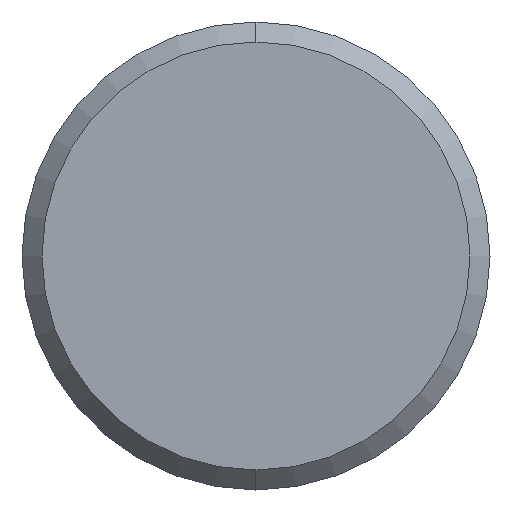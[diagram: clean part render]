
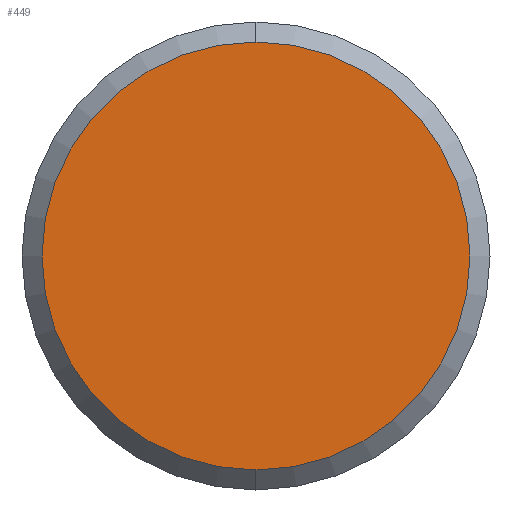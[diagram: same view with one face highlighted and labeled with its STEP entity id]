
A CAD part, left-side view. The second image highlights one B-rep face of the part: STEP entity #449.
In plain terms, the highlighted planar face has unit normal (-1, 0, 0).
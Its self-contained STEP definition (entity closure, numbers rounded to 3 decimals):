
#10 = CARTESIAN_POINT ( 'NONE',  ( -247.6, 0., 0. ) ) ;
#33 = DIRECTION ( 'NONE',  ( -1., 0., 0. ) ) ;
#39 = ORIENTED_EDGE ( 'NONE', *, *, #132, .T. ) ;
#59 = DIRECTION ( 'NONE',  ( 0., 0., -1. ) ) ;
#73 = EDGE_CURVE ( 'NONE', #233, #201, #423, .T. ) ;
#84 = CARTESIAN_POINT ( 'NONE',  ( -247.6, 0., -11.75 ) ) ;
#95 = PLANE ( 'NONE',  #200 ) ;
#97 = AXIS2_PLACEMENT_3D ( 'NONE', #425, #33, #419 ) ;
#119 = DIRECTION ( 'NONE',  ( 0., 0., -1. ) ) ;
#124 = DIRECTION ( 'NONE',  ( -1., 0., 0. ) ) ;
#131 = ORIENTED_EDGE ( 'NONE', *, *, #73, .T. ) ;
#132 = EDGE_CURVE ( 'NONE', #201, #233, #206, .T. ) ;
#194 = DIRECTION ( 'NONE',  ( 1., 0., 0. ) ) ;
#200 = AXIS2_PLACEMENT_3D ( 'NONE', #356, #194, #59 ) ;
#201 = VERTEX_POINT ( 'NONE', #84 ) ;
#206 = CIRCLE ( 'NONE', #97, 11.75 ) ;
#215 = EDGE_LOOP ( 'NONE', ( #39, #131 ) ) ;
#230 = CARTESIAN_POINT ( 'NONE',  ( -247.6, 0., 11.75 ) ) ;
#233 = VERTEX_POINT ( 'NONE', #230 ) ;
#333 = AXIS2_PLACEMENT_3D ( 'NONE', #10, #124, #119 ) ;
#356 = CARTESIAN_POINT ( 'NONE',  ( -247.6, 12.85, 0. ) ) ;
#383 = FACE_OUTER_BOUND ( 'NONE', #215, .T. ) ;
#419 = DIRECTION ( 'NONE',  ( 0., 0., -1. ) ) ;
#423 = CIRCLE ( 'NONE', #333, 11.75 ) ;
#425 = CARTESIAN_POINT ( 'NONE',  ( -247.6, 0., 0. ) ) ;
#449 = ADVANCED_FACE ( 'NONE', ( #383 ), #95, .F. ) ;
